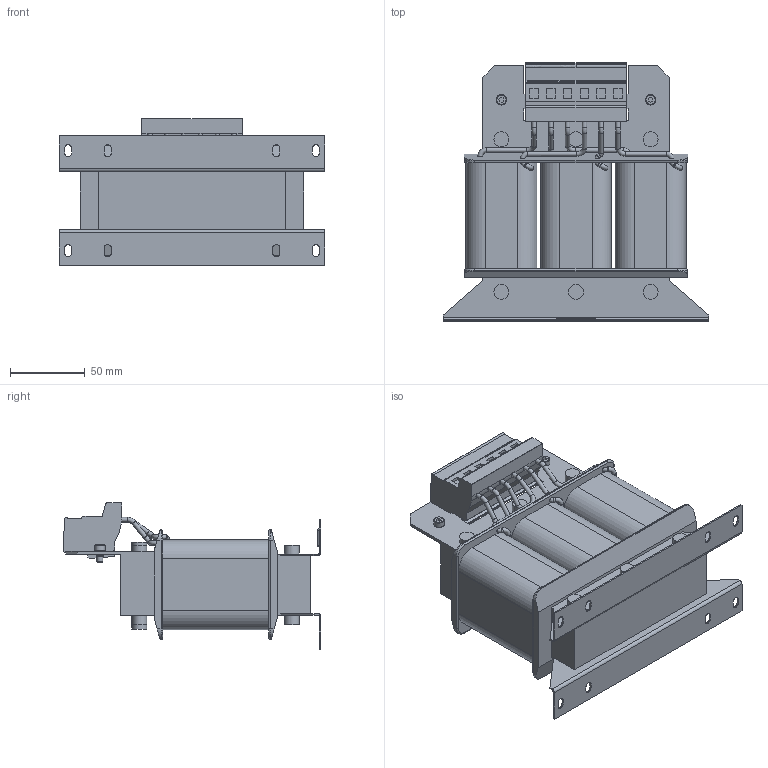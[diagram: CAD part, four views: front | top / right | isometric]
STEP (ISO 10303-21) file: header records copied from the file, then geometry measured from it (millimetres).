
FILE_DESCRIPTION (( 'STEP AP214' ), '1' );
FILE_NAME ('15Z1B03-1000.STEP', '2022-04-05T09:24:07', ( '' ), ( '' ), 'SwSTEP 2.0', 'SolidWorks 2019', '' );
FILE_SCHEMA (( 'AUTOMOTIVE_DESIGN' ));
Length unit declared in the file: millimetre
Products named in the file (1): 15Z1B03-1000
Bounding box: 178 x 172.9 x 98.45 mm (x, y, z)
Volume: 1018267.4 mm3; surface area: 131459.2 mm2
Topology: 1 solids, 1 shells, 396 faces, 1054 edges, 685 vertices
Faces by surface type: plane 210, cylinder 113, torus 38, bspline 31, cone 4
Full cylindrical faces by diameter (mm): 3.1 x24, 4 x4, 4.78 x2, 7 x2, 10 x12
Entity records: 14299 total; most frequent: CARTESIAN_POINT 4801, ORIENTED_EDGE 1922, DIRECTION 1744, EDGE_CURVE 961, VERTEX_POINT 667, AXIS2_PLACEMENT_3D 595, VECTOR 554, LINE 554
